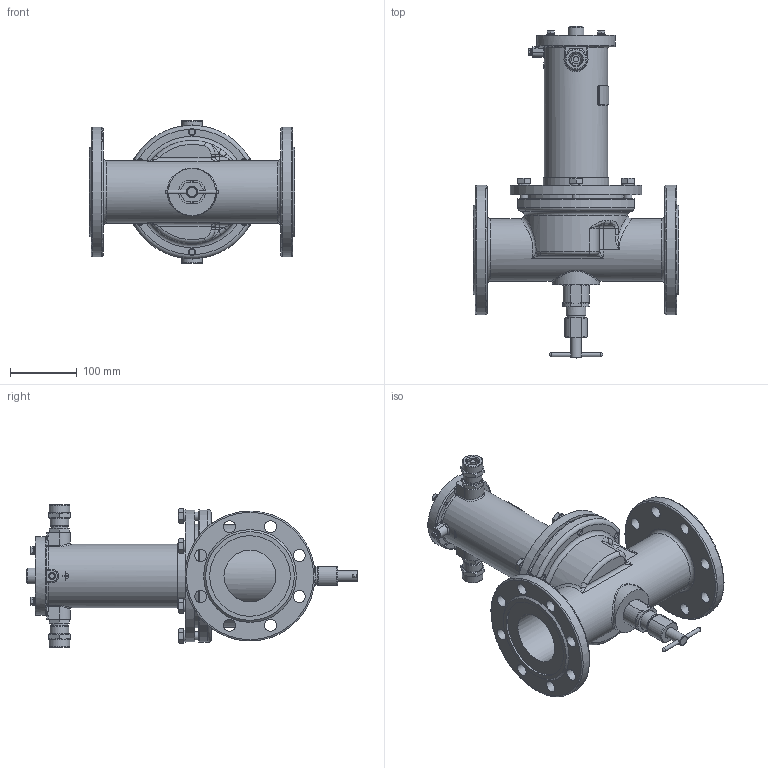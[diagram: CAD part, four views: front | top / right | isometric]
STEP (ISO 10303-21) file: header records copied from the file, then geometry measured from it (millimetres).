
FILE_DESCRIPTION(('STEP AP203'), '1');
FILE_NAME('ÑÅÍÑ DN80PN25-ÑÂ.stp', '2018-09-19T08:33:45', ('Îðëîâ Å.Â.'), ('ÎÎÎ ÍÏÏ Ñåíñîð'), 'ASCON STEP Converter 1.3', 'Kompas 3D', '');
FILE_SCHEMA(('CONFIG_CONTROL_DESIGN','SUPPORT_RESOURCE_SCHEMA'));
Length unit declared in the file: millimetre
Products named in the file (1): 3
Bounding box: 308 x 498 x 214 mm (x, y, z)
Volume: 3033292.6 mm3; surface area: 699505.4 mm2
Topology: 3 solids, 18 shells, 1978 faces, 5293 edges, 3429 vertices
Faces by surface type: cylinder 1005, plane 724, cone 120, bspline 56, torus 49, extrusion 16, sphere 8
Full cylindrical faces by diameter (mm): 3.5 x2, 4.134 x1, 4.917 x4, 5 x1, 6 x9, 6.5 x4, 8 x4, 10 x1, 10.106 x6, 12 x10, 13 x8, 16 x2, 17 x2, 18 x17, 18.632 x2, 20 x3, 22 x2, 22.376 x2, 23 x1, 23.5 x2, 24 x3, 24.5 x2, 26 x4, 26.376 x2, 27.8 x1, 28 x3, 28.5 x2, 30 x2, 31 x2, 53 x1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
Entity records: 79943 total; most frequent: CARTESIAN_POINT 29604, DIRECTION 10825, ORIENTED_EDGE 10532, EDGE_CURVE 5266, AXIS2_PLACEMENT_3D 4165, VERTEX_POINT 3429, VECTOR 2495, LINE 2479
